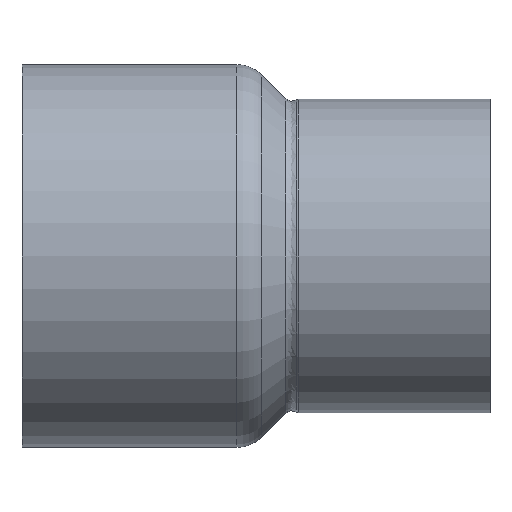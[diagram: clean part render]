
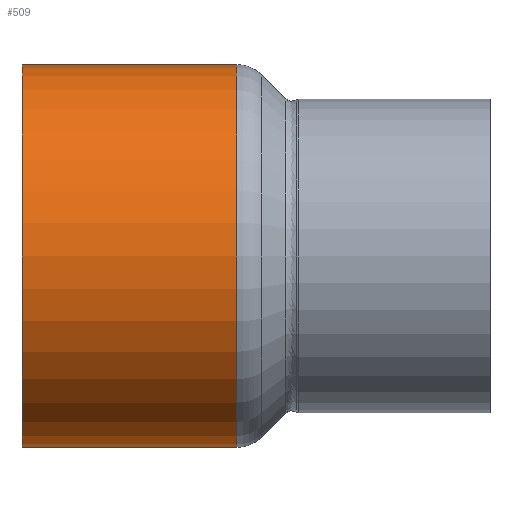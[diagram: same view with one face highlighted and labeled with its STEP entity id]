
A CAD part, front view. The second image highlights one B-rep face of the part: STEP entity #509.
In plain terms, the highlighted cylindrical face has radius 27.6 mm (diameter 55.2 mm), a full revolution.
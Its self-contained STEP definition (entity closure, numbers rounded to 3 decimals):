
#84=CARTESIAN_POINT('',(16.057,27.6,0.0));
#85=VERTEX_POINT('',#84);
#86=CARTESIAN_POINT('',(16.057,0.0,0.0));
#87=DIRECTION('',(1.0,0.0,0.0));
#88=DIRECTION('',(0.0,1.0,0.0));
#89=AXIS2_PLACEMENT_3D('',#86,#87,#88);
#90=CIRCLE('',#89,27.6);
#91=EDGE_CURVE('',#85,#85,#90,.T.);
#483=CARTESIAN_POINT('',(-14.943,27.6,0.0));
#484=VERTEX_POINT('',#483);
#485=CARTESIAN_POINT('',(-14.943,0.0,0.0));
#486=DIRECTION('',(1.0,0.0,0.0));
#487=DIRECTION('',(0.0,1.0,0.0));
#488=AXIS2_PLACEMENT_3D('',#485,#486,#487);
#489=CIRCLE('',#488,27.6);
#490=EDGE_CURVE('',#484,#484,#489,.T.);
#498=CARTESIAN_POINT('',(0.557,0.0,0.0));
#499=DIRECTION('',(1.0,0.0,0.0));
#500=DIRECTION('',(0.0,1.0,0.0));
#501=AXIS2_PLACEMENT_3D('',#498,#499,#500);
#502=CYLINDRICAL_SURFACE('',#501,27.6);
#503=ORIENTED_EDGE('',*,*,#91,.F.);
#504=EDGE_LOOP('',(#503));
#505=FACE_OUTER_BOUND('',#504,.T.);
#506=ORIENTED_EDGE('',*,*,#490,.T.);
#507=EDGE_LOOP('',(#506));
#508=FACE_BOUND('',#507,.T.);
#509=ADVANCED_FACE('',(#505,#508),#502,.T.);
